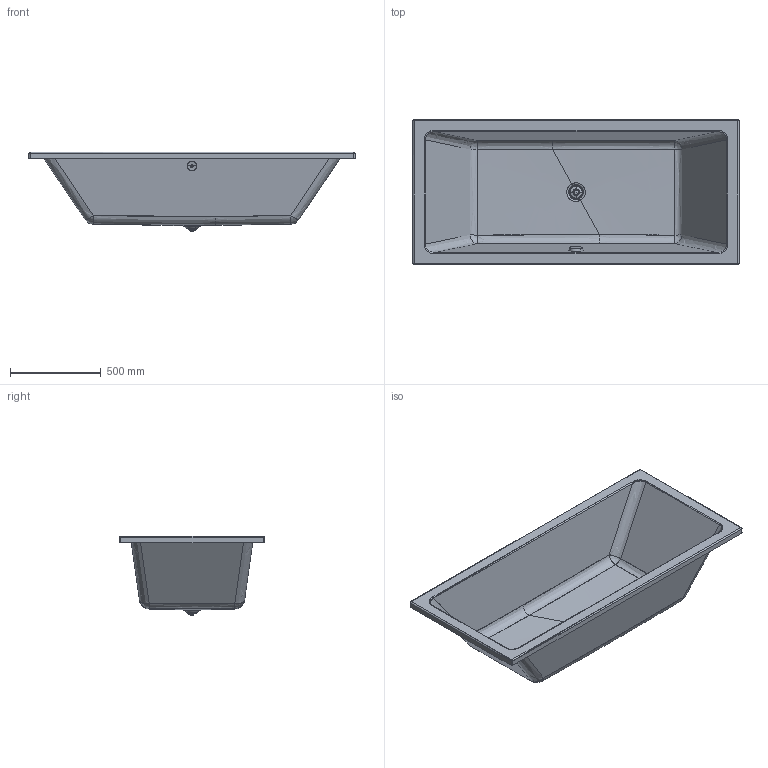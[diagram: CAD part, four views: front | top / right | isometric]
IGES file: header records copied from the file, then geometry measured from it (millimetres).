
Global section: file name: d:\users\matthias.isele\Desktop\Planungsdaten_erstellen\700492\700492.igs; native system: Rhinoceros ( Sep 13 2016 ); preprocessor: Trout Lake IGES 012 Sep 13 2016; date: 210729.095303; units: millimetre
Bounding box: 1800 x 800 x 438.17 mm (x, y, z)
Surface area: 5516522.5 mm2 (no closed solid volume)
Topology: 0 solids, 0 shells, 395 faces, 2612 edges, 2596 vertices
Faces by surface type: bspline 395
